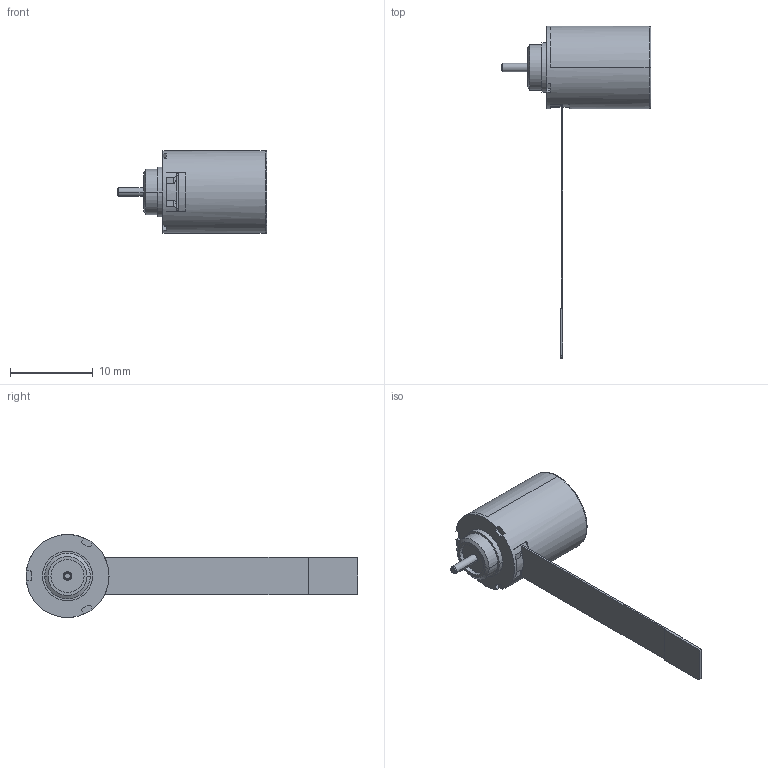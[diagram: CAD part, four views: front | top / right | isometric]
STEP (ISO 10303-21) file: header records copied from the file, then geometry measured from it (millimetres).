
FILE_DESCRIPTION((''),'2;1');
FILE_NAME('4912810_SW0001','2019-03-06T',('mmagvisi'),(''),'CREO PARAMETRIC BY PTC INC, 2017300','CREO PARAMETRIC BY PTC INC, 2017300','');
FILE_SCHEMA(('CONFIG_CONTROL_DESIGN'));
Length unit declared in the file: millimetre
Products named in the file (1): 4912810_SW0001
Bounding box: 18 x 40 x 10 mm (x, y, z)
Volume: 1063.2 mm3; surface area: 900.5 mm2
Topology: 1 solids, 1 shells, 106 faces, 284 edges, 186 vertices
Faces by surface type: plane 72, cylinder 26, torus 4, cone 4
Entity records: 4340 total; most frequent: CARTESIAN_POINT 667, ORIENTED_EDGE 568, DIRECTION 560, PRESENTATION_STYLE_ASSIGNMENT 285, STYLED_ITEM 285, CURVE_STYLE 284, EDGE_CURVE 284, VECTOR 204
